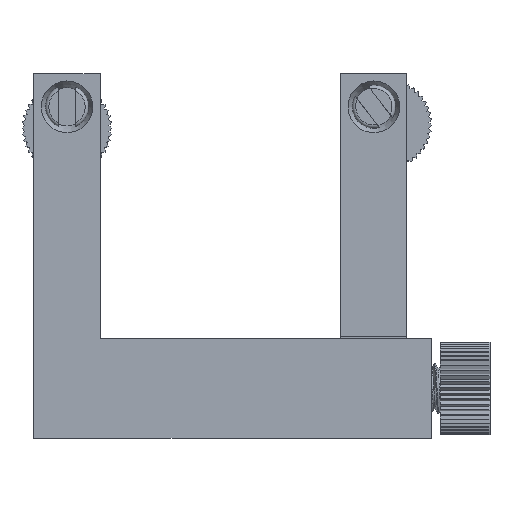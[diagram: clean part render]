
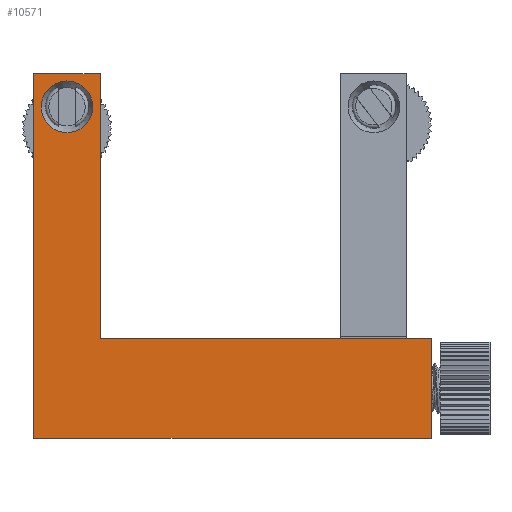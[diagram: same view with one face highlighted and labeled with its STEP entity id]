
A CAD part, top view. The second image highlights one B-rep face of the part: STEP entity #10571.
In plain terms, the highlighted planar face has unit normal (0, 0, 1).
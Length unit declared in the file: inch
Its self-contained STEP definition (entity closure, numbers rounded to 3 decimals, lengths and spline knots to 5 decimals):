
#326 = CARTESIAN_POINT ( 'NONE',  ( -2.5, 0.75, 0.375 ) ) ;
#336 = CARTESIAN_POINT ( 'NONE',  ( 0., 0., 0.375 ) ) ;
#900 = VERTEX_POINT ( 'NONE', #326 ) ;
#1272 = DIRECTION ( 'NONE',  ( -1., 0., 0. ) ) ;
#1284 = DIRECTION ( 'NONE',  ( -1., 0., 0. ) ) ;
#1340 = CARTESIAN_POINT ( 'NONE',  ( -3., 0., 0.375 ) ) ;
#1552 = LINE ( 'NONE', #16017, #5567 ) ;
#1764 = LINE ( 'NONE', #9324, #4965 ) ;
#2971 = VERTEX_POINT ( 'NONE', #15504 ) ;
#3141 = ORIENTED_EDGE ( 'NONE', *, *, #9388, .T. ) ;
#3711 = CIRCLE ( 'NONE', #20111, 0.195 ) ;
#3739 = VERTEX_POINT ( 'NONE', #336 ) ;
#4249 = EDGE_CURVE ( 'NONE', #18814, #18814, #3711, .T. ) ;
#4737 = CARTESIAN_POINT ( 'NONE',  ( -3., 0., 0.375 ) ) ;
#4771 = EDGE_CURVE ( 'NONE', #2971, #16502, #1552, .T. ) ;
#4835 = LINE ( 'NONE', #16060, #10360 ) ;
#4965 = VECTOR ( 'NONE', #8066, 39.37008 ) ;
#5464 = VECTOR ( 'NONE', #11145, 39.37008 ) ;
#5567 = VECTOR ( 'NONE', #12671, 39.37008 ) ;
#5704 = CARTESIAN_POINT ( 'NONE',  ( -2.5, 0.75, 0.375 ) ) ;
#5752 = EDGE_LOOP ( 'NONE', ( #12599, #12045, #11167, #8686, #3141, #17491 ) ) ;
#6449 = FACE_OUTER_BOUND ( 'NONE', #5752, .T. ) ;
#7486 = DIRECTION ( 'NONE',  ( 0., 0., -1. ) ) ;
#7726 = VERTEX_POINT ( 'NONE', #10929 ) ;
#8066 = DIRECTION ( 'NONE',  ( 1., 0., 0. ) ) ;
#8686 = ORIENTED_EDGE ( 'NONE', *, *, #4771, .T. ) ;
#9324 = CARTESIAN_POINT ( 'NONE',  ( 0., 0., 0.375 ) ) ;
#9388 = EDGE_CURVE ( 'NONE', #16502, #9759, #18988, .T. ) ;
#9759 = VERTEX_POINT ( 'NONE', #1340 ) ;
#10360 = VECTOR ( 'NONE', #1272, 39.37008 ) ;
#10571 = ADVANCED_FACE ( 'NONE', ( #16195, #6449 ), #13054, .T. ) ;
#10929 = CARTESIAN_POINT ( 'NONE',  ( 0., 0.75, 0.375 ) ) ;
#11143 = EDGE_LOOP ( 'NONE', ( #17468 ) ) ;
#11144 = EDGE_CURVE ( 'NONE', #900, #2971, #13659, .T. ) ;
#11145 = DIRECTION ( 'NONE',  ( 0., -1., 0. ) ) ;
#11167 = ORIENTED_EDGE ( 'NONE', *, *, #11144, .T. ) ;
#11347 = VECTOR ( 'NONE', #19857, 39.37008 ) ;
#12045 = ORIENTED_EDGE ( 'NONE', *, *, #19428, .T. ) ;
#12599 = ORIENTED_EDGE ( 'NONE', *, *, #16014, .T. ) ;
#12671 = DIRECTION ( 'NONE',  ( -1., 0., 0. ) ) ;
#13054 = PLANE ( 'NONE',  #15274 ) ;
#13659 = LINE ( 'NONE', #5704, #14617 ) ;
#14352 = EDGE_CURVE ( 'NONE', #9759, #3739, #1764, .T. ) ;
#14518 = DIRECTION ( 'NONE',  ( 0., 0., 1. ) ) ;
#14617 = VECTOR ( 'NONE', #17024, 39.37008 ) ;
#14736 = CARTESIAN_POINT ( 'NONE',  ( -3., 2.75, 0.375 ) ) ;
#15148 = CARTESIAN_POINT ( 'NONE',  ( 0., 0., 0.375 ) ) ;
#15274 = AXIS2_PLACEMENT_3D ( 'NONE', #16096, #14518, #19020 ) ;
#15504 = CARTESIAN_POINT ( 'NONE',  ( -2.5, 2.75, 0.375 ) ) ;
#15639 = CARTESIAN_POINT ( 'NONE',  ( -2.75, 2.5, 0.375 ) ) ;
#16014 = EDGE_CURVE ( 'NONE', #3739, #7726, #20081, .T. ) ;
#16017 = CARTESIAN_POINT ( 'NONE',  ( -3., 2.75, 0.375 ) ) ;
#16060 = CARTESIAN_POINT ( 'NONE',  ( 0., 0.75, 0.375 ) ) ;
#16096 = CARTESIAN_POINT ( 'NONE',  ( 0., 0., 0.375 ) ) ;
#16195 = FACE_BOUND ( 'NONE', #11143, .T. ) ;
#16502 = VERTEX_POINT ( 'NONE', #14736 ) ;
#17024 = DIRECTION ( 'NONE',  ( 0., 1., 0. ) ) ;
#17468 = ORIENTED_EDGE ( 'NONE', *, *, #4249, .T. ) ;
#17491 = ORIENTED_EDGE ( 'NONE', *, *, #14352, .T. ) ;
#18714 = CARTESIAN_POINT ( 'NONE',  ( -2.945, 2.5, 0.375 ) ) ;
#18814 = VERTEX_POINT ( 'NONE', #18714 ) ;
#18988 = LINE ( 'NONE', #4737, #5464 ) ;
#19020 = DIRECTION ( 'NONE',  ( 1., 0., 0. ) ) ;
#19428 = EDGE_CURVE ( 'NONE', #7726, #900, #4835, .T. ) ;
#19857 = DIRECTION ( 'NONE',  ( 0., 1., 0. ) ) ;
#20081 = LINE ( 'NONE', #15148, #11347 ) ;
#20111 = AXIS2_PLACEMENT_3D ( 'NONE', #15639, #7486, #1284 ) ;
